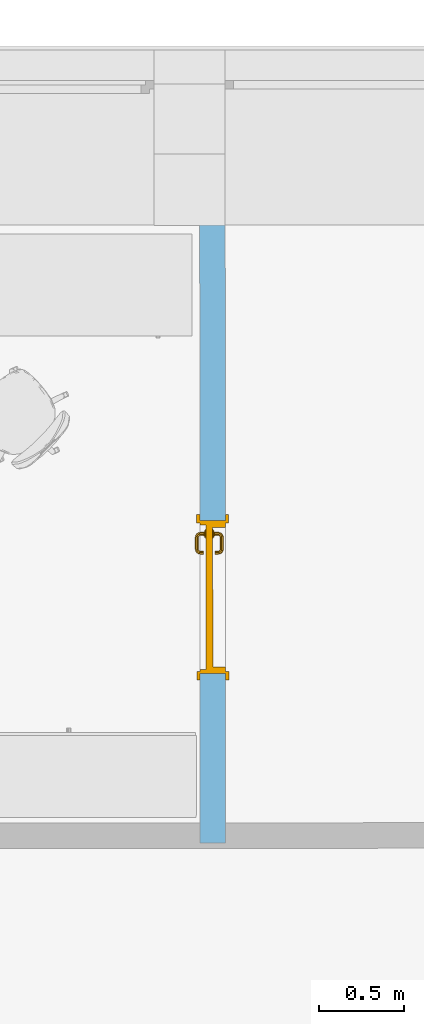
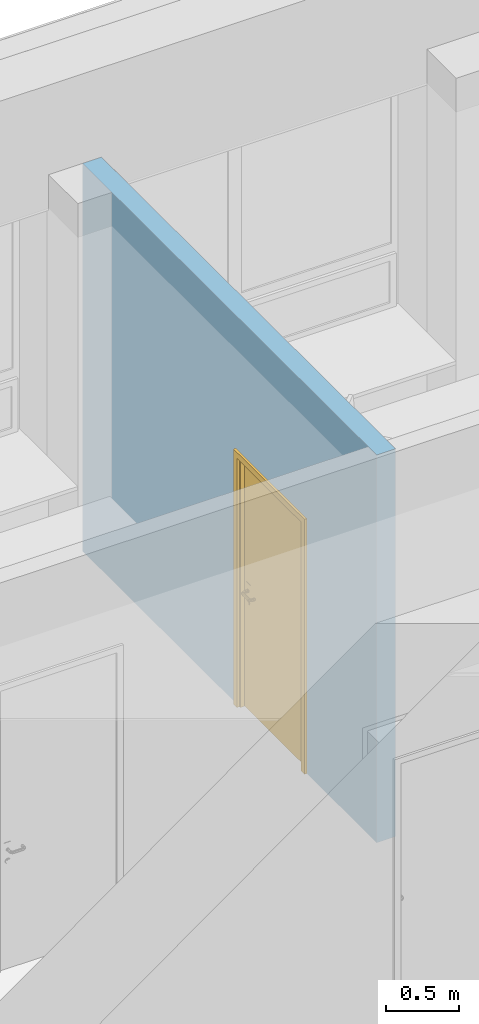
# One storey, part 57 of 194: 1 door, 1 opening, plus 1 element that does not belong to this part.
"""IFC2X3 building model written with IfcOpenShell, lengths in millimetres."""

from ifc_helpers import new_model, entity, si_unit, converted_unit, derived_unit, money_unit, direction, frame, origin_with_axes, origin_2d_with_axis, place, context, subcontext, project, spatial, polyline, rectangle, outline, extrude, open_shell, faceted_brep, surface_model, material, layer, layer_set, layer_usage, type_object, element, fill, save


model = new_model("IFC2X3")

# Units and contexts
model_context = context("Model", 3, precision=1e-05, world=origin_with_axes(), true_north=direction((0.0, 1.0)))
body_context = subcontext(model_context, "Body", "Model", "MODEL_VIEW")
ifc_project = project(units=[si_unit("LENGTHUNIT", "METRE", prefix="MILLI"), si_unit("AREAUNIT", "SQUARE_METRE"), si_unit("VOLUMEUNIT", "CUBIC_METRE"), converted_unit("PLANEANGLEUNIT", "DEGREE", entity("IfcPlaneAngleMeasure", 0.0174532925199), si_unit("PLANEANGLEUNIT", "RADIAN"), dimensions=[0, 0, 0, 0, 0, 0, 0]), si_unit("SOLIDANGLEUNIT", "STERADIAN"), money_unit("EUR"), converted_unit("TIMEUNIT", "Year", entity("IfcTimeMeasure", 31556926.0), si_unit("TIMEUNIT", "SECOND"), dimensions=[0, 0, 1, 0, 0, 0, 0]), si_unit("MASSUNIT", "GRAM", prefix="KILO"), si_unit("THERMODYNAMICTEMPERATUREUNIT", "DEGREE_CELSIUS"), si_unit("LUMINOUSINTENSITYUNIT", "LUMEN"), si_unit("ENERGYUNIT", "JOULE", prefix="MEGA"), derived_unit("THERMALCONDUCTANCEUNIT", [(si_unit("POWERUNIT", "WATT"), 1), (si_unit("LENGTHUNIT", "METRE"), -1), (si_unit("THERMODYNAMICTEMPERATUREUNIT", "KELVIN"), -1)]), derived_unit("SPECIFICHEATCAPACITYUNIT", [(si_unit("ENERGYUNIT", "JOULE"), 1), (si_unit("MASSUNIT", "GRAM", prefix="KILO"), -1), (si_unit("THERMODYNAMICTEMPERATUREUNIT", "KELVIN"), -1)]), derived_unit("MASSDENSITYUNIT", [(si_unit("MASSUNIT", "GRAM", prefix="KILO"), 1), (si_unit("VOLUMEUNIT", "CUBIC_METRE"), -1)])], contexts=[model_context])

# Site, building, storey
site_placement = place(None, origin_with_axes())
site = spatial("IfcSite", under=ifc_project, at=site_placement, Name="Site", CompositionType="ELEMENT")
building_placement = place(site_placement, origin_with_axes())
building = spatial("IfcBuilding", under=site, at=building_placement, Name="Building", CompositionType="ELEMENT")
storey_placement = place(building_placement, frame((0.0, 0.0, 3000.0), z_axis=(0.0, 0.0, 1.0), x_axis=(1.0, 0.0, 0.0)))
storey = spatial("IfcBuildingStorey", under=building, at=storey_placement, Name="2 KORRUS", CompositionType="ELEMENT", Elevation=3000.0)

# Wall, opening, door
ifc_material = material(Name="Kivi -Ol.Olev Konstruktsioon")
ifc_layer = layer(ifc_material, 150.0, ventilated="UNKNOWN")
ifc_layer_set = layer_set([ifc_layer], Name="ol.olev ss 150")
ifc_layer_usage = layer_usage(ifc_layer_set, "AXIS2", "POSITIVE", -150.0)
wall_type = type_object("IfcWallType", Name="SW - 022", PredefinedType="NOTDEFINED")
wall_placement = place(storey_placement, frame((49153.7551418, 47302.325893, 0.0), z_axis=(0.0, 0.0, 1.0), x_axis=(0.00079728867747, -0.999999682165, 0.0)))
wall = element("IfcWallStandardCase", 1, at=wall_placement, inside=storey, type_object=wall_type, material=ifc_layer_usage, Name="ol.olev ss 150", context=body_context, shape_type="SweptSolid", body=[
    extrude(outline(polyline([(429.88054333, -150.0), (4461.53896125, -150.0), (4461.53896125, 0.0), (430.000136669, 1.13686837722e-10), (429.88054333, -150.0)])), origin_with_axes(), (0.0, 0.0, 1.0), 3250.0),
])
opening_placement = place(wall_placement, frame((3016.95794605, 0.0, 0.0), z_axis=(0.0, 0.0, 1.0), x_axis=(1.0, 0.0, 0.0)))
opening = element("IfcOpeningElement", 2, at=opening_placement, cuts=wall, Name="Siseuks * Door 22", context=body_context, shape_type="SweptSolid", body=[
    extrude(rectangle(XDim=900.0, YDim=2100.0, at=origin_2d_with_axis()), frame((9.09494701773e-10, -150.0, 1050.0), z_axis=(0.0, -1.0, 0.0), x_axis=(1.0, 0.0, 0.0)), (0.0, 0.0, -1.0), 450.0),
    extrude(rectangle(XDim=973.999999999, YDim=2137.0, at=origin_2d_with_axis()), frame((1.81898940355e-09, -150.0, 1068.5), z_axis=(0.0, -1.0, 0.0), x_axis=(1.0, 0.0, 0.0)), (0.0, 0.0, 1.0), 150.0),
    extrude(rectangle(XDim=974.0, YDim=2137.0, at=origin_2d_with_axis()), frame((9.09494701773e-10, 0.0, 1068.5), z_axis=(0.0, 1.0, 0.0), x_axis=(1.0, 0.0, 0.0)), (0.0, 0.0, 1.0), 150.0),
])
door_style = type_object("IfcDoorStyle", Name="SU-B217A   900×2\xa0100", ConstructionType="NOTDEFINED", OperationType="SINGLE_SWING_LEFT", ParameterTakesPrecedence=False, Sizeable=False)
door_placement = place(opening_placement, frame((450.000000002, 0.0, 0.0), z_axis=(0.0, 0.0, 1.0), x_axis=(-1.0, 0.0, 0.0)))
door = element("IfcDoor", 3, at=door_placement, inside=storey, type_object=door_style, Name="Siseuks * Door 22", OverallHeight=2100.0, OverallWidth=900.0, context=body_context, shape_type="SurfaceModel", body=[
    faceted_brep([(900.0, 115.0, 0.0), (875.0, 115.0, 0.0), (875.0, 150.0, 0.0), (900.0, 150.0, 0.0), (900.0, 115.0, 2100.0), (875.0, 115.0, 2075.0), (875.0, 150.0, 2075.0), (900.0, 150.0, 2100.0)], [[[0, 1, 2, 3]], [[0, 4, 5, 1]], [[1, 5, 6, 2]], [[3, 2, 6, 7]], [[4, 0, 3, 7]], [[5, 4, 7, 6]]]),
    faceted_brep([(0.0, 115.0, 2100.0), (24.9999999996, 115.0, 2075.0), (24.9999999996, 150.0, 2075.0), (0.0, 150.0, 2100.0), (0.0, 115.0, 0.0), (24.9999999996, 115.0, 0.0), (24.9999999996, 150.0, 0.0), (0.0, 150.0, 0.0)], [[[0, 1, 2, 3]], [[0, 4, 5, 1]], [[1, 5, 6, 2]], [[3, 2, 6, 7]], [[4, 0, 3, 7]], [[5, 4, 7, 6]]]),
    faceted_brep([(875.0, 115.0, 2075.0), (24.9999999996, 115.0, 2075.0), (24.9999999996, 150.0, 2075.0), (875.0, 150.0, 2075.0), (900.0, 115.0, 2100.0), (0.0, 115.0, 2100.0), (0.0, 150.0, 2100.0), (900.0, 150.0, 2100.0)], [[[0, 1, 2, 3]], [[0, 4, 5, 1]], [[1, 5, 6, 2]], [[3, 2, 6, 7]], [[4, 0, 3, 7]], [[5, 4, 7, 6]]]),
    faceted_brep([(936.999999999, 169.0, 0.0), (936.999999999, 150.0, 0.0), (887.0, 150.0, 0.0), (887.0, 169.0, 0.0), (936.999999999, 169.0, 2137.0), (936.999999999, 150.0, 2137.0), (887.0, 150.0, 2087.0), (887.0, 169.0, 2087.0)], [[[0, 1, 2, 3]], [[4, 5, 1, 0]], [[1, 5, 6, 2]], [[3, 2, 6, 7]], [[0, 3, 7, 4]], [[7, 6, 5, 4]]]),
    faceted_brep([(-37.0000000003, 169.0, 2137.0), (-36.9999999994, 150.0, 2137.0), (12.9999999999, 150.0, 2087.0), (12.9999999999, 169.0, 2087.0), (-37.0000000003, 169.0, 0.0), (-36.9999999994, 150.0, 0.0), (12.9999999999, 150.0, 0.0), (12.9999999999, 169.0, 0.0)], [[[0, 1, 2, 3]], [[4, 5, 1, 0]], [[1, 5, 6, 2]], [[3, 2, 6, 7]], [[0, 3, 7, 4]], [[7, 6, 5, 4]]]),
    faceted_brep([(936.999999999, 169.0, 2137.0), (936.999999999, 150.0, 2137.0), (887.0, 150.0, 2087.0), (887.0, 169.0, 2087.0), (-37.0000000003, 169.0, 2137.0), (-36.9999999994, 150.0, 2137.0), (12.9999999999, 150.0, 2087.0), (12.9999999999, 169.0, 2087.0)], [[[0, 1, 2, 3]], [[4, 5, 1, 0]], [[1, 5, 6, 2]], [[3, 2, 6, 7]], [[0, 3, 7, 4]], [[7, 6, 5, 4]]]),
    faceted_brep([(936.999999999, -19.0, 0.0), (887.0, -19.0, 0.0), (887.0, -1.13686837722e-10, 0.0), (936.999999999, -1.13686837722e-10, 0.0), (936.999999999, -19.0, 2137.0), (887.0, -19.0, 2087.0), (887.0, -1.13686837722e-10, 2087.0), (936.999999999, -1.13686837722e-10, 2137.0)], [[[0, 1, 2, 3]], [[0, 4, 5, 1]], [[1, 5, 6, 2]], [[3, 2, 6, 7]], [[4, 0, 3, 7]], [[5, 4, 7, 6]]]),
    faceted_brep([(-36.9999999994, -19.0000000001, 2137.0), (12.999999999, -19.0, 2087.0), (12.9999999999, 0.0, 2087.0), (-37.0000000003, 0.0, 2137.0), (-36.9999999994, -19.0000000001, 0.0), (12.999999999, -19.0, 0.0), (12.9999999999, 0.0, 0.0), (-37.0000000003, 0.0, 0.0)], [[[0, 1, 2, 3]], [[0, 4, 5, 1]], [[1, 5, 6, 2]], [[3, 2, 6, 7]], [[4, 0, 3, 7]], [[5, 4, 7, 6]]]),
    faceted_brep([(936.999999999, -19.0, 2137.0), (887.0, -19.0, 2087.0), (887.0, -1.13686837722e-10, 2087.0), (936.999999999, -1.13686837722e-10, 2137.0), (-36.9999999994, -19.0000000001, 2137.0), (12.999999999, -19.0, 2087.0), (12.9999999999, 0.0, 2087.0), (-37.0000000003, 0.0, 2137.0)], [[[0, 1, 2, 3]], [[0, 4, 5, 1]], [[1, 5, 6, 2]], [[3, 2, 6, 7]], [[4, 0, 3, 7]], [[5, 4, 7, 6]]]),
    faceted_brep([(860.0, 75.0, 0.0), (860.0, 0.0, 0.0), (860.0, 0.0, 2060.0), (860.0, 75.0, 2060.0), (871.999999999, 74.9999999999, 0.0), (871.999999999, 115.0, 0.0), (900.0, 115.0, 0.0), (900.0, 0.0, 0.0), (900.0, 0.0, 2060.0), (871.999999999, 74.9999999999, 2060.0), (900.0, 115.0, 2060.0), (871.999999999, 115.0, 2060.0)], [[[0, 1, 2, 3]], [[4, 5, 6, 7, 1, 0]], [[1, 7, 8, 2]], [[9, 3, 2, 8, 10, 11]], [[9, 4, 0, 3]], [[11, 5, 4, 9]], [[11, 10, 6, 5]], [[6, 10, 8, 7]]]),
    faceted_brep([(28.0000000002, 74.9999999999, 2060.0), (28.0000000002, 115.0, 2060.0), (0.0, 115.0, 2060.0), (0.0, 0.0, 2060.0), (39.9999999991, -1.13686837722e-10, 2060.0), (39.9999999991, 74.9999999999, 2060.0), (28.0000000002, 74.9999999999, 0.0), (28.0000000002, 115.0, 0.0), (0.0, 115.0, 0.0), (0.0, 0.0, 0.0), (39.9999999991, -1.13686837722e-10, 0.0), (39.9999999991, 74.9999999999, 0.0)], [[[0, 1, 2, 3, 4, 5]], [[0, 6, 7, 1]], [[7, 8, 2, 1]], [[2, 8, 9, 3]], [[3, 9, 10, 4]], [[5, 4, 10, 11]], [[5, 11, 6, 0]], [[6, 11, 10, 9, 8, 7]]]),
    faceted_brep([(871.999999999, 115.0, 2072.0), (28.0000000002, 115.0, 2072.0), (28.0000000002, 115.0, 2060.0), (0.0, 115.0, 2060.0), (0.0, 115.0, 2100.0), (900.0, 115.0, 2100.0), (900.0, 115.0, 2060.0), (871.999999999, 115.0, 2060.0), (871.999999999, 74.9999999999, 2072.0), (28.0000000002, 74.9999999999, 2072.0), (28.0000000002, 74.9999999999, 2060.0), (39.9999999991, 74.9999999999, 2060.0), (39.9999999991, -1.13686837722e-10, 2060.0), (0.0, 0.0, 2060.0), (0.0, 0.0, 2100.0), (900.0, 0.0, 2100.0), (900.0, 0.0, 2060.0), (871.999999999, 74.9999999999, 2060.0), (860.0, 0.0, 2060.0), (860.0, 75.0, 2060.0)], [[[0, 1, 2, 3, 4, 5, 6, 7]], [[0, 8, 9, 1]], [[1, 9, 10, 2]], [[10, 11, 12, 13, 3, 2]], [[4, 3, 13, 14]], [[5, 4, 14, 15]], [[6, 5, 15, 16]], [[17, 7, 6, 16, 18, 19]], [[7, 17, 8, 0]], [[10, 9, 8, 17, 19, 11]], [[19, 18, 12, 11]], [[12, 18, 16, 15, 14, 13]]]),
    faceted_brep([(850.5, 75.0, 1060.0), (793.499999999, 74.9999999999, 1060.0), (793.5, 72.0, 1060.0), (850.5, 71.9999999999, 1060.0), (850.5, 75.0, 870.0), (793.499999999, 74.9999999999, 870.0), (793.5, 72.0, 870.0), (850.5, 71.9999999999, 870.0)], [[[0, 1, 2, 3]], [[0, 4, 5, 1]], [[1, 5, 6, 2]], [[3, 2, 6, 7]], [[4, 0, 3, 7]], [[5, 4, 7, 6]]]),
    surface_model("IfcShellBasedSurfaceModel", [(811.999999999, 61.9999999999, 1000.0), (814.928932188, 62.0, 992.928932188), (814.928932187, 42.696439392, 992.928932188), (811.999999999, 42.9849140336, 1000.0), (822.0, 62.0, 990.0), (821.999999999, 42.0, 990.0), (813.816790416, 37.1053251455, 992.928932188), (811.057796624, 38.2481377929, 1000.0), (814.928932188, 62.0, 1007.07106781), (814.928932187, 42.696439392, 1007.07106781), (829.071067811, 62.0, 992.928932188), (829.071067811, 41.303560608, 992.928932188), (820.47759065, 34.3463313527, 990.0), (811.044179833, 32.9558201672, 992.928932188), (808.932537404, 35.0674625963, 1000.0), (813.816790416, 37.1053251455, 1007.07106781), (822.0, 62.0, 1010.0), (821.999999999, 42.0, 1010.0), (832.0, 62.0, 1000.0), (832.0, 41.0150859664, 1000.0), (827.138390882, 31.5873375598, 992.928932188), (816.142135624, 27.8578643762, 990.0), (806.894674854, 30.1832095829, 992.928932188), (805.751862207, 32.9422033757, 1000.0), (811.044179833, 32.9558201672, 1007.07106781), (820.47759065, 34.3463313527, 1010.0), (829.071067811, 62.0, 1007.07106781), (829.071067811, 41.303560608, 1007.07106781), (829.897384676, 30.4445249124, 1000.0), (821.240091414, 22.7599085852, 992.928932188), (809.653668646, 23.5224093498, 990.0), (801.303560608, 29.0710678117, 992.928932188), (801.015085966, 32.0, 1000.0), (806.894674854, 30.1832095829, 1007.07106781), (816.142135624, 27.8578643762, 1010.0), (827.138390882, 31.5873375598, 1007.07106781), (823.351733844, 20.6482661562, 1000.0), (812.41266244, 16.8616091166, 992.928932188), (802.0, 21.9999999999, 990.0), (732.696439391, 29.0710678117, 992.928932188), (732.984914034, 31.9999999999, 1000.0), (801.303560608, 29.0710678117, 1007.07106781), (809.653668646, 23.5224093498, 1010.0), (821.240091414, 22.7599085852, 1007.07106781), (813.555475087, 14.1026153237, 1000.0), (802.696439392, 14.9289321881, 992.928932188), (731.999999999, 22.0, 990.0), (727.105325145, 30.1832095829, 992.928932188), (728.248137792, 32.9422033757, 1000.0), (732.696439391, 29.0710678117, 1007.07106781), (802.0, 21.9999999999, 1010.0), (812.41266244, 16.8616091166, 1007.07106781), (802.984914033, 11.9999999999, 1000.0), (731.303560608, 14.9289321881, 992.928932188), (724.346331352, 23.5224093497, 990.0), (722.955820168, 32.9558201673, 992.928932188), (725.067462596, 35.0674625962, 1000.0), (727.105325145, 30.1832095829, 1007.07106781), (731.999999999, 22.0, 1010.0), (802.696439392, 14.9289321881, 1007.07106781), (731.015085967, 11.9999999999, 1000.0), (721.58733756, 16.8616091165, 992.928932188), (717.857864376, 27.8578643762, 990.0), (720.183209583, 37.1053251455, 992.928932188), (722.942203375, 38.2481377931, 1000.0), (722.955820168, 32.9558201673, 1007.07106781), (724.346331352, 23.5224093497, 1010.0), (731.303560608, 14.9289321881, 1007.07106781), (720.444524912, 14.1026153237, 1000.0), (712.759908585, 22.7599085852, 992.928932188), (713.522409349, 34.3463313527, 990.0), (719.071067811, 42.6964393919, 992.928932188), (722.0, 42.9849140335, 1000.0), (720.183209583, 37.1053251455, 1007.07106781), (717.857864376, 27.8578643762, 1010.0), (721.58733756, 16.8616091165, 1007.07106781), (710.648266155, 20.6482661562, 1000.0), (706.861609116, 31.5873375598, 992.928932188), (712.0, 42.0, 990.0), (719.071067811, 61.9999999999, 992.928932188), (722.0, 62.0, 1000.0), (719.071067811, 42.6964393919, 1007.07106781), (713.522409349, 34.3463313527, 1010.0), (712.759908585, 22.7599085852, 1007.07106781), (704.102615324, 30.4445249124, 1000.0), (704.928932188, 41.303560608, 992.928932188), (712.0, 62.0, 990.0), (704.928932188, 62.0, 992.928932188), (701.999999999, 61.9999999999, 1000.0), (704.928932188, 62.0, 1007.07106781), (712.0, 62.0, 1010.0), (719.071067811, 61.9999999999, 1007.07106781), (712.0, 42.0, 1010.0), (706.861609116, 31.5873375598, 1007.07106781), (701.999999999, 41.0150859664, 1000.0), (704.928932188, 41.303560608, 1007.07106781)], [open_shell([[[0, 1, 2, 3]], [[1, 4, 5, 2]], [[3, 2, 6, 7]], [[8, 0, 3, 9]], [[4, 10, 11, 5]], [[2, 5, 12, 6]], [[7, 6, 13, 14]], [[9, 3, 7, 15]], [[16, 8, 9, 17]], [[10, 18, 19, 11]], [[5, 11, 20, 12]], [[6, 12, 21, 13]], [[14, 13, 22, 23]], [[15, 7, 14, 24]], [[17, 9, 15, 25]], [[26, 16, 17, 27]], [[18, 26, 27, 19]], [[11, 19, 28, 20]], [[12, 20, 29, 21]], [[13, 21, 30, 22]], [[23, 22, 31, 32]], [[24, 14, 23, 33]], [[25, 15, 24, 34]], [[27, 17, 25, 35]], [[19, 27, 35, 28]], [[20, 28, 36, 29]], [[21, 29, 37, 30]], [[22, 30, 38, 31]], [[32, 31, 39, 40]], [[33, 23, 32, 41]], [[34, 24, 33, 42]], [[35, 25, 34, 43]], [[28, 35, 43, 36]], [[29, 36, 44, 37]], [[30, 37, 45, 38]], [[31, 38, 46, 39]], [[40, 39, 47, 48]], [[41, 32, 40, 49]], [[42, 33, 41, 50]], [[43, 34, 42, 51]], [[36, 43, 51, 44]], [[37, 44, 52, 45]], [[38, 45, 53, 46]], [[39, 46, 54, 47]], [[48, 47, 55, 56]], [[49, 40, 48, 57]], [[50, 41, 49, 58]], [[51, 42, 50, 59]], [[44, 51, 59, 52]], [[45, 52, 60, 53]], [[46, 53, 61, 54]], [[47, 54, 62, 55]], [[56, 55, 63, 64]], [[57, 48, 56, 65]], [[58, 49, 57, 66]], [[59, 50, 58, 67]], [[52, 59, 67, 60]], [[53, 60, 68, 61]], [[54, 61, 69, 62]], [[55, 62, 70, 63]], [[64, 63, 71, 72]], [[65, 56, 64, 73]], [[66, 57, 65, 74]], [[67, 58, 66, 75]], [[60, 67, 75, 68]], [[61, 68, 76, 69]], [[62, 69, 77, 70]], [[63, 70, 78, 71]], [[72, 71, 79, 80]], [[73, 64, 72, 81]], [[74, 65, 73, 82]], [[75, 66, 74, 83]], [[68, 75, 83, 76]], [[69, 76, 84, 77]], [[70, 77, 85, 78]], [[71, 78, 86, 79]], [[80, 79, 86, 87, 88, 89, 90, 91]], [[81, 72, 80, 91]], [[82, 73, 81, 92]], [[83, 74, 82, 93]], [[76, 83, 93, 84]], [[77, 84, 94, 85]], [[78, 85, 87, 86]], [[85, 94, 88, 87]], [[94, 95, 89, 88]], [[95, 92, 90, 89]], [[92, 81, 91, 90]], [[93, 82, 92, 95]], [[84, 93, 95, 94]]])]),
    faceted_brep([(811.607695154, 61.9999999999, 994.0), (809.999999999, 62.0, 1000.0), (808.999999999, 72.0, 1000.0), (810.74166975, 72.0, 993.5), (816.0, 62.0, 989.607695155), (822.0, 62.0, 988.0), (828.0, 61.9999999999, 989.607695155), (832.392304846, 61.9999999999, 994.0), (833.999999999, 61.9999999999, 1000.0), (832.392304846, 61.9999999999, 1006.0), (828.0, 61.9999999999, 1010.39230485), (822.0, 62.0, 1012.0), (816.0, 62.0, 1010.39230485), (811.607695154, 61.9999999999, 1006.0), (810.74166975, 72.0, 1006.5), (815.5, 71.9999999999, 1011.25833025), (821.999999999, 72.0, 1013.0), (828.5, 72.0, 1011.25833025), (833.258330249, 72.0, 1006.5), (834.999999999, 72.0, 1000.0), (833.258330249, 72.0, 993.5), (828.5, 72.0, 988.741669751), (821.999999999, 72.0, 987.0), (815.5, 71.9999999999, 988.741669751)], [[[0, 1, 2, 3]], [[1, 0, 4, 5, 6, 7, 8, 9, 10, 11, 12, 13]], [[1, 13, 14, 2]], [[2, 14, 15, 16, 17, 18, 19, 20, 21, 22, 23, 3]], [[4, 0, 3, 23]], [[5, 4, 23, 22]], [[6, 5, 22, 21]], [[7, 6, 21, 20]], [[8, 7, 20, 19]], [[9, 8, 19, 18]], [[10, 9, 18, 17]], [[11, 10, 17, 16]], [[12, 11, 16, 15]], [[13, 12, 15, 14]]]),
    faceted_brep([(804.679491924, 67.9999999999, 895.0), (802.0, 67.9999999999, 905.0), (800.0, 72.0, 905.0), (802.947441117, 71.9999999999, 894.0), (811.999999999, 68.0, 887.679491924), (822.0, 68.0, 885.0), (832.0, 68.0, 887.679491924), (839.320508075, 67.9999999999, 895.0), (842.0, 67.9999999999, 905.0), (839.320508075, 67.9999999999, 915.0), (832.0, 68.0, 922.320508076), (822.0, 68.0, 925.0), (811.999999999, 68.0, 922.320508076), (804.679491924, 67.9999999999, 915.0), (802.947441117, 71.9999999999, 916.0), (811.0, 72.0, 924.052558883), (821.999999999, 72.0, 927.0), (832.999999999, 71.9999999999, 924.052558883), (841.052558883, 72.0, 916.0), (844.0, 72.0, 905.0), (841.052558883, 72.0, 894.0), (832.999999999, 71.9999999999, 885.947441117), (821.999999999, 72.0, 883.0), (811.0, 72.0, 885.947441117)], [[[0, 1, 2, 3]], [[1, 0, 4, 5, 6, 7, 8, 9, 10, 11, 12, 13]], [[1, 13, 14, 2]], [[2, 14, 15, 16, 17, 18, 19, 20, 21, 22, 23, 3]], [[4, 0, 3, 23]], [[5, 4, 23, 22]], [[6, 5, 22, 21]], [[7, 6, 21, 20]], [[8, 7, 20, 19]], [[9, 8, 19, 18]], [[10, 9, 18, 17]], [[11, 10, 17, 16]], [[12, 11, 16, 15]], [[13, 12, 15, 14]]]),
    faceted_brep([(817.050252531, 65.9999999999, 909.050252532), (815.0, 66.0, 914.0), (813.999999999, 67.9999999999, 914.0), (816.34314575, 67.9999999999, 908.343145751), (822.0, 66.0, 907.0), (826.949747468, 65.9999999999, 909.050252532), (829.0, 65.9999999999, 914.0), (826.949747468, 65.9999999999, 918.949747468), (822.0, 66.0, 921.0), (817.050252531, 65.9999999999, 918.949747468), (816.34314575, 67.9999999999, 919.656854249), (822.0, 68.0, 922.0), (827.656854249, 68.0, 919.656854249), (830.0, 68.0, 914.0), (827.656854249, 68.0, 908.343145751), (822.0, 68.0, 906.0)], [[[0, 1, 2, 3]], [[1, 0, 4, 5, 6, 7, 8, 9]], [[1, 9, 10, 2]], [[2, 10, 11, 12, 13, 14, 15, 3]], [[4, 0, 3, 15]], [[5, 4, 15, 14]], [[6, 5, 14, 13]], [[7, 6, 13, 12]], [[8, 7, 12, 11]], [[9, 8, 11, 10]]]),
    faceted_brep([(850.5, 115.0, 1060.0), (850.5, 118.0, 1060.0), (793.5, 118.0, 1060.0), (793.5, 115.0, 1060.0), (850.5, 115.0, 870.0), (850.5, 118.0, 870.0), (793.5, 118.0, 870.0), (793.5, 115.0, 870.0)], [[[0, 1, 2, 3]], [[4, 5, 1, 0]], [[1, 5, 6, 2]], [[3, 2, 6, 7]], [[0, 3, 7, 4]], [[7, 6, 5, 4]]]),
    surface_model("IfcShellBasedSurfaceModel", [(812.0, 128.0, 1000.0), (812.0, 147.015085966, 1000.0), (814.928932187, 147.303560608, 992.928932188), (814.928932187, 128.0, 992.928932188), (814.928932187, 128.0, 1007.07106781), (814.928932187, 147.303560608, 1007.07106781), (811.057796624, 151.751862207, 1000.0), (813.816790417, 152.894674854, 992.928932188), (822.0, 148.0, 990.0), (821.999999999, 128.0, 990.0), (821.999999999, 128.0, 1010.0), (822.0, 148.0, 1010.0), (813.816790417, 152.894674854, 1007.07106781), (808.932537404, 154.932537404, 1000.0), (811.044179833, 157.044179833, 992.928932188), (820.47759065, 155.653668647, 990.0), (829.071067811, 148.696439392, 992.928932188), (829.071067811, 128.0, 992.928932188), (829.071067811, 128.0, 1007.07106781), (829.071067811, 148.696439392, 1007.07106781), (820.47759065, 155.653668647, 1010.0), (811.044179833, 157.044179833, 1007.07106781), (805.751862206, 157.057796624, 1000.0), (806.894674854, 159.816790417, 992.928932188), (816.142135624, 162.142135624, 990.0), (827.138390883, 158.41266244, 992.928932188), (831.999999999, 148.984914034, 1000.0), (831.999999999, 128.0, 1000.0), (827.138390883, 158.41266244, 1007.07106781), (816.142135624, 162.142135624, 1010.0), (806.894674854, 159.816790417, 1007.07106781), (801.015085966, 158.0, 1000.0), (801.303560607, 160.928932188, 992.928932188), (809.653668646, 166.47759065, 990.0), (821.240091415, 167.240091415, 992.928932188), (829.897384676, 159.555475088, 1000.0), (821.240091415, 167.240091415, 1007.07106781), (809.653668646, 166.47759065, 1010.0), (801.303560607, 160.928932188, 1007.07106781), (732.984914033, 158.0, 1000.0), (732.696439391, 160.928932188, 992.928932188), (801.999999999, 168.0, 990.0), (812.41266244, 173.138390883, 992.928932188), (823.351733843, 169.351733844, 1000.0), (812.41266244, 173.138390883, 1007.07106781), (801.999999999, 168.0, 1010.0), (732.696439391, 160.928932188, 1007.07106781), (728.248137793, 157.057796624, 1000.0), (727.105325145, 159.816790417, 992.928932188), (732.0, 168.0, 990.0), (802.696439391, 175.071067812, 992.928932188), (813.555475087, 175.897384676, 1000.0), (802.696439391, 175.071067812, 1007.07106781), (732.0, 168.0, 1010.0), (727.105325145, 159.816790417, 1007.07106781), (725.067462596, 154.932537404, 1000.0), (722.955820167, 157.044179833, 992.928932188), (724.346331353, 166.47759065, 990.0), (731.303560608, 175.071067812, 992.928932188), (802.984914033, 178.0, 1000.0), (731.303560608, 175.071067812, 1007.07106781), (724.346331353, 166.47759065, 1010.0), (722.955820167, 157.044179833, 1007.07106781), (722.942203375, 151.751862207, 1000.0), (720.183209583, 152.894674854, 992.928932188), (717.857864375, 162.142135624, 990.0), (721.58733756, 173.138390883, 992.928932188), (731.015085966, 178.0, 1000.0), (721.58733756, 173.138390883, 1007.07106781), (717.857864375, 162.142135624, 1010.0), (720.183209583, 152.894674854, 1007.07106781), (722.0, 147.015085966, 1000.0), (719.071067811, 147.303560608, 992.928932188), (713.52240935, 155.653668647, 990.0), (712.759908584, 167.240091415, 992.928932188), (720.444524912, 175.897384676, 1000.0), (712.759908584, 167.240091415, 1007.07106781), (713.52240935, 155.653668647, 1010.0), (719.071067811, 147.303560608, 1007.07106781), (722.0, 128.0, 1000.0), (719.071067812, 128.0, 992.928932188), (711.999999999, 148.0, 990.0), (706.861609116, 158.41266244, 992.928932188), (710.648266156, 169.351733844, 1000.0), (706.861609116, 158.41266244, 1007.07106781), (711.999999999, 148.0, 1010.0), (719.071067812, 128.0, 1007.07106781), (712.0, 128.0, 1010.0), (704.928932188, 128.0, 1007.07106781), (702.0, 128.0, 1000.0), (704.928932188, 128.0, 992.928932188), (712.0, 128.0, 990.0), (704.928932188, 148.696439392, 992.928932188), (704.102615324, 159.555475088, 1000.0), (704.928932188, 148.696439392, 1007.07106781), (701.999999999, 148.984914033, 1000.0)], [open_shell([[[0, 1, 2, 3]], [[4, 5, 1, 0]], [[1, 6, 7, 2]], [[3, 2, 8, 9]], [[10, 11, 5, 4]], [[5, 12, 6, 1]], [[6, 13, 14, 7]], [[2, 7, 15, 8]], [[9, 8, 16, 17]], [[18, 19, 11, 10]], [[11, 20, 12, 5]], [[12, 21, 13, 6]], [[13, 22, 23, 14]], [[7, 14, 24, 15]], [[8, 15, 25, 16]], [[17, 16, 26, 27]], [[27, 26, 19, 18]], [[19, 28, 20, 11]], [[20, 29, 21, 12]], [[21, 30, 22, 13]], [[22, 31, 32, 23]], [[14, 23, 33, 24]], [[15, 24, 34, 25]], [[16, 25, 35, 26]], [[26, 35, 28, 19]], [[28, 36, 29, 20]], [[29, 37, 30, 21]], [[30, 38, 31, 22]], [[31, 39, 40, 32]], [[23, 32, 41, 33]], [[24, 33, 42, 34]], [[25, 34, 43, 35]], [[35, 43, 36, 28]], [[36, 44, 37, 29]], [[37, 45, 38, 30]], [[38, 46, 39, 31]], [[39, 47, 48, 40]], [[32, 40, 49, 41]], [[33, 41, 50, 42]], [[34, 42, 51, 43]], [[43, 51, 44, 36]], [[44, 52, 45, 37]], [[45, 53, 46, 38]], [[46, 54, 47, 39]], [[47, 55, 56, 48]], [[40, 48, 57, 49]], [[41, 49, 58, 50]], [[42, 50, 59, 51]], [[51, 59, 52, 44]], [[52, 60, 53, 45]], [[53, 61, 54, 46]], [[54, 62, 55, 47]], [[55, 63, 64, 56]], [[48, 56, 65, 57]], [[49, 57, 66, 58]], [[50, 58, 67, 59]], [[59, 67, 60, 52]], [[60, 68, 61, 53]], [[61, 69, 62, 54]], [[62, 70, 63, 55]], [[63, 71, 72, 64]], [[56, 64, 73, 65]], [[57, 65, 74, 66]], [[58, 66, 75, 67]], [[67, 75, 68, 60]], [[68, 76, 69, 61]], [[69, 77, 70, 62]], [[70, 78, 71, 63]], [[71, 79, 80, 72]], [[64, 72, 81, 73]], [[65, 73, 82, 74]], [[66, 74, 83, 75]], [[75, 83, 76, 68]], [[76, 84, 77, 69]], [[77, 85, 78, 70]], [[78, 86, 79, 71]], [[79, 86, 87, 88, 89, 90, 91, 80]], [[72, 80, 91, 81]], [[73, 81, 92, 82]], [[74, 82, 93, 83]], [[83, 93, 84, 76]], [[84, 94, 85, 77]], [[85, 87, 86, 78]], [[94, 88, 87, 85]], [[95, 89, 88, 94]], [[92, 90, 89, 95]], [[81, 91, 90, 92]], [[82, 92, 95, 93]], [[93, 95, 94, 84]]])]),
    faceted_brep([(811.607695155, 128.0, 994.0), (810.741669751, 118.0, 993.5), (808.999999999, 118.0, 1000.0), (809.999999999, 128.0, 1000.0), (816.0, 128.0, 989.607695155), (815.5, 118.0, 988.741669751), (821.999999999, 118.0, 987.0), (828.5, 118.0, 988.741669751), (833.258330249, 118.0, 993.5), (834.999999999, 118.0, 1000.0), (833.258330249, 118.0, 1006.5), (828.5, 118.0, 1011.25833025), (821.999999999, 118.0, 1013.0), (815.5, 118.0, 1011.25833025), (810.741669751, 118.0, 1006.5), (811.607695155, 128.0, 1006.0), (816.0, 128.0, 1010.39230485), (821.999999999, 128.0, 1012.0), (828.0, 128.0, 1010.39230485), (832.392304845, 128.0, 1006.0), (833.999999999, 128.0, 1000.0), (832.392304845, 128.0, 994.0), (828.0, 128.0, 989.607695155), (821.999999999, 128.0, 988.0)], [[[0, 1, 2, 3]], [[4, 5, 1, 0]], [[2, 1, 5, 6, 7, 8, 9, 10, 11, 12, 13, 14]], [[3, 2, 14, 15]], [[3, 15, 16, 17, 18, 19, 20, 21, 22, 23, 4, 0]], [[23, 6, 5, 4]], [[22, 7, 6, 23]], [[21, 8, 7, 22]], [[20, 9, 8, 21]], [[19, 10, 9, 20]], [[18, 11, 10, 19]], [[17, 12, 11, 18]], [[16, 13, 12, 17]], [[15, 14, 13, 16]]]),
    faceted_brep([(804.679491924, 122.0, 895.0), (802.947441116, 118.0, 894.0), (799.999999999, 118.0, 905.0), (802.0, 122.0, 905.0), (812.0, 122.0, 887.679491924), (811.0, 118.0, 885.947441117), (821.999999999, 118.0, 883.0), (832.999999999, 118.0, 885.947441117), (841.052558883, 118.0, 894.0), (844.0, 118.0, 905.0), (841.052558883, 118.0, 916.0), (832.999999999, 118.0, 924.052558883), (821.999999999, 118.0, 927.0), (811.0, 118.0, 924.052558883), (802.947441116, 118.0, 916.0), (804.679491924, 122.0, 915.0), (812.0, 122.0, 922.320508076), (821.999999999, 122.0, 925.0), (831.999999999, 122.0, 922.320508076), (839.320508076, 122.0, 915.0), (842.0, 122.0, 905.0), (839.320508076, 122.0, 895.0), (831.999999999, 122.0, 887.679491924), (821.999999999, 122.0, 885.0)], [[[0, 1, 2, 3]], [[4, 5, 1, 0]], [[2, 1, 5, 6, 7, 8, 9, 10, 11, 12, 13, 14]], [[3, 2, 14, 15]], [[3, 15, 16, 17, 18, 19, 20, 21, 22, 23, 4, 0]], [[23, 6, 5, 4]], [[22, 7, 6, 23]], [[21, 8, 7, 22]], [[20, 9, 8, 21]], [[19, 10, 9, 20]], [[18, 11, 10, 19]], [[17, 12, 11, 18]], [[16, 13, 12, 17]], [[15, 14, 13, 16]]]),
    faceted_brep([(817.050252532, 124.0, 909.050252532), (816.34314575, 122.0, 908.343145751), (813.999999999, 122.0, 914.0), (815.0, 124.0, 914.0), (822.0, 124.0, 907.0), (821.999999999, 122.0, 906.0), (827.656854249, 122.0, 908.343145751), (830.0, 122.0, 914.0), (827.656854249, 122.0, 919.656854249), (821.999999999, 122.0, 922.0), (816.34314575, 122.0, 919.656854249), (817.050252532, 124.0, 918.949747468), (822.0, 124.0, 921.0), (826.949747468, 124.0, 918.949747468), (829.0, 124.0, 914.0), (826.949747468, 124.0, 909.050252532)], [[[0, 1, 2, 3]], [[4, 5, 1, 0]], [[2, 1, 5, 6, 7, 8, 9, 10]], [[3, 2, 10, 11]], [[3, 11, 12, 13, 14, 15, 4, 0]], [[15, 6, 5, 4]], [[14, 7, 6, 15]], [[13, 8, 7, 14]], [[12, 9, 8, 13]], [[11, 10, 9, 12]]]),
    faceted_brep([(28.0000000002, 115.0, 0.0), (871.999999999, 115.0, 0.0), (871.999999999, 74.9999999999, 0.0), (28.0000000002, 74.9999999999, 0.0), (28.0000000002, 115.0, 2072.0), (871.999999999, 115.0, 2072.0), (871.999999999, 74.9999999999, 2072.0), (28.0000000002, 74.9999999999, 2072.0)], [[[0, 1, 2, 3]], [[0, 4, 5, 1]], [[1, 5, 6, 2]], [[3, 2, 6, 7]], [[4, 0, 3, 7]], [[5, 4, 7, 6]]]),
])
fill(opening, door)

save(model, "model.ifc")
